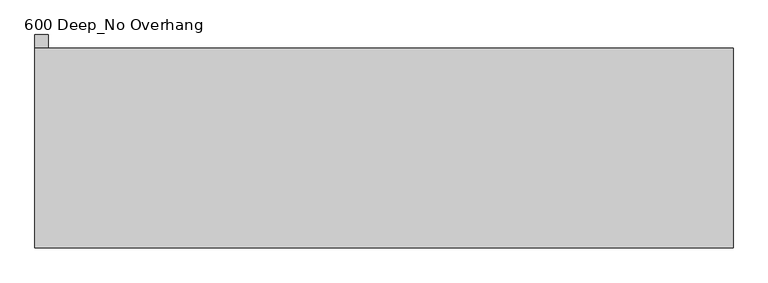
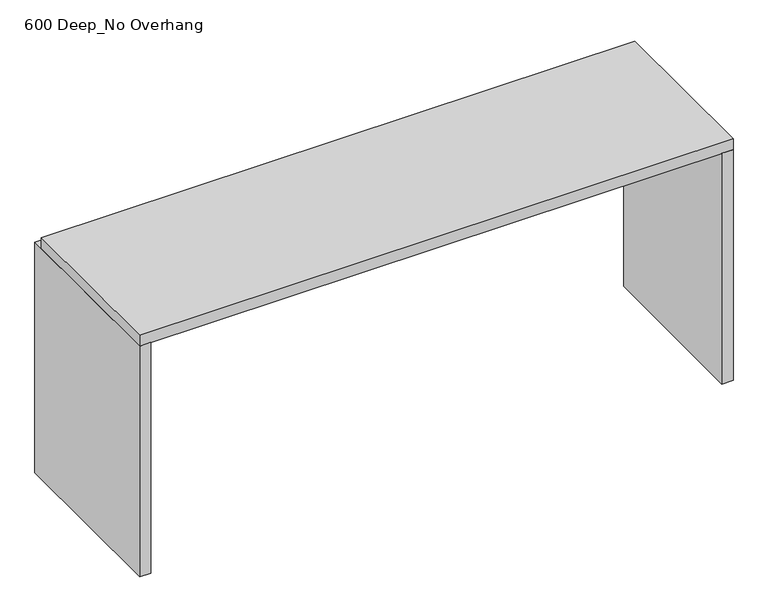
"""IFC4 building model written with IfcOpenShell, lengths in millimetres: furniture geometry, Benchtop_Optional Hole_I Shaped_CAS : 600 Deep_No Overhang."""

from ifc_helpers import new_model, si_unit, frame, origin, origin_with_axes, place, context, project, spatial, polyline, outline, extrude, source, transform, mapped, element, save


def furniture_600_deep_no_overhang_fc6b35c9(model_context):
    return source(origin(), model_context, "Body", "SweptSolid", [
        extrude(outline(polyline([(898.4356716, -600.0), (898.4356716, 0.0), (938.4356716, 0.0), (938.4356716, -600.0), (898.4356716, -600.0)])), origin_with_axes(), (0.0, 0.0, 1.0), 860.0),
        extrude(outline(polyline([(-1115.2996736, 40.0), (-1115.2996736, -600.0), (-1155.2996736, -600.0), (-1155.2996736, 40.0), (-1115.2996736, 40.0)])), origin_with_axes(), (0.0, 0.0, 1.0), 860.0),
        extrude(outline(polyline([(938.4356716, 0.0), (938.4356716, -600.0), (-1155.2996736, -600.0), (-1155.2996736, 0.0), (938.4356716, 0.0)])), frame((0.0, 0.0, 860.0), z_axis=(0.0, 0.0, 1.0), x_axis=(1.0, 0.0, 0.0)), (0.0, 0.0, 1.0), 40.0),
    ])


if __name__ == "__main__":
    model = new_model("IFC4")
    model_context = context("Model", 3, world=origin())
    ifc_project = project(units=[si_unit("LENGTHUNIT", "METRE", prefix="MILLI")], contexts=[model_context])
    site = spatial("IfcSite", under=ifc_project)
    building = spatial("IfcBuilding", under=site)
    placement = place(None, origin())
    furniture_600_deep_no_overhang_shape = furniture_600_deep_no_overhang_fc6b35c9(model_context)
    element("IfcFurniture", 1, ObjectType="Benchtop_Optional Hole_I Shaped_CAS : 600 Deep_No Overhang", at=placement, inside=building, context=model_context, shape_type="MappedRepresentation", body=[
        mapped(furniture_600_deep_no_overhang_shape, transform((0.0, 0.0, 0.0), x_axis=(1.0, 0.0, 0.0), y_axis=(0.0, 1.0, 0.0), z_axis=(0.0, 0.0, 1.0))),
    ])
    save(model, "model.ifc")
